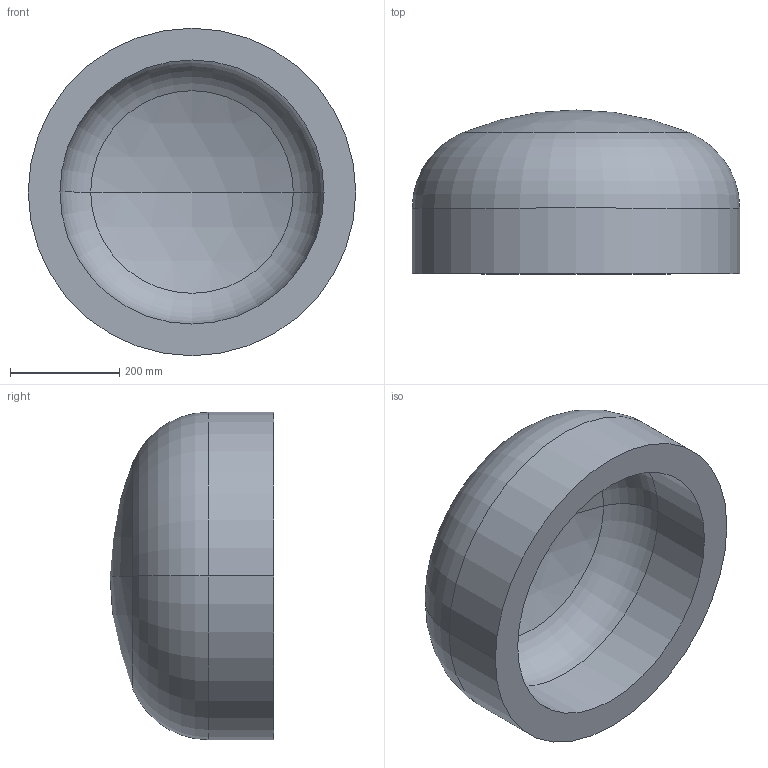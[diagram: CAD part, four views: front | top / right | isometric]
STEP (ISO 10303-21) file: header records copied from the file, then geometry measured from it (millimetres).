
FILE_DESCRIPTION (( 'STEP AP203' ), '1' );
FILE_NAME ('DIN 28013 Korbbogenform_-_Boden DIN 28013 - 600 x 120 - I - s=58.step', '2016-07-01T08:01:58', ( '' ), ( '' ), 'SwSTEP 2.0', 'SolidWorks 2013', '' );
FILE_SCHEMA (( 'CONFIG_CONTROL_DESIGN' ));
Length unit declared in the file: millimetre
Products named in the file (1): DIN 28013 Korbbogenform_-_Boden DIN 28013 - 600 x 120 - I - s=58
Bounding box: 600 x 300.17 x 600 mm (x, y, z)
Volume: 31979156.2 mm3; surface area: 1208534 mm2
Topology: 1 solids, 1 shells, 13 faces, 24 edges, 14 vertices
Faces by surface type: torus 4, cylinder 4, sphere 4, plane 1
Entity records: 407 total; most frequent: DIRECTION 72, CARTESIAN_POINT 52, ORIENTED_EDGE 48, AXIS2_PLACEMENT_3D 34, EDGE_CURVE 24, CIRCLE 20, EDGE_LOOP 14, VERTEX_POINT 14
